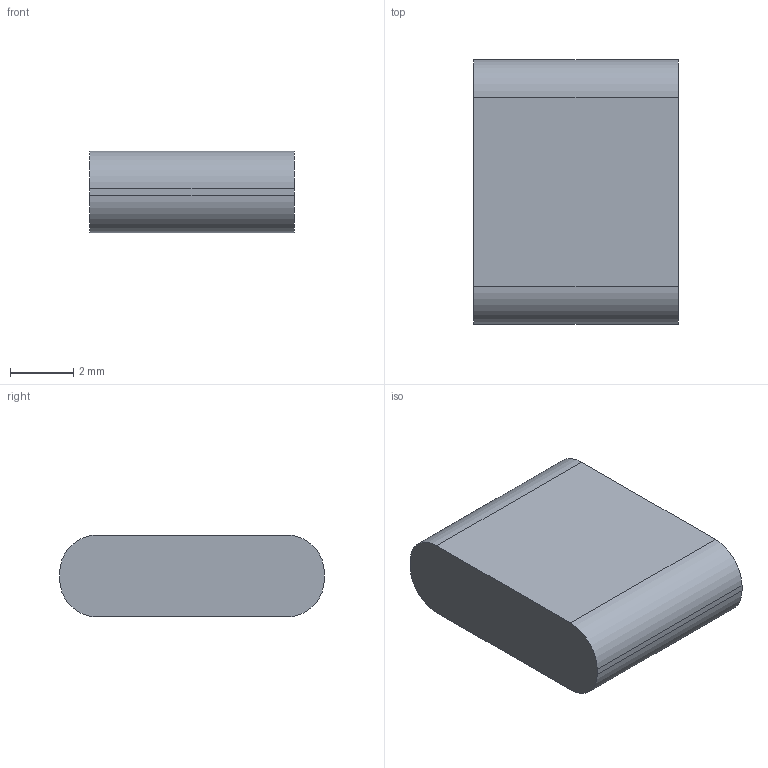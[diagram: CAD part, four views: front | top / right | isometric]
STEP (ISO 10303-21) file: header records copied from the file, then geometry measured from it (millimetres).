
FILE_DESCRIPTION(('Open CASCADE Model'),'2;1');
FILE_NAME('Open CASCADE Shape Model','2026-09-06T11:32:42',('Author'),( 'Open CASCADE'),'Open CASCADE STEP processor 7.7','Open CASCADE 7.7' ,'Unknown');
FILE_SCHEMA(('AUTOMOTIVE_DESIGN { 1 0 10303 214 1 1 1 1 }'));
Length unit declared in the file: millimetre
Products named in the file (1): Open CASCADE STEP translator 7.7 5
Bounding box: 6.5 x 8.4 x 2.6 mm (x, y, z)
Volume: 133.9 mm3; surface area: 170.8 mm2
Topology: 1 solids, 1 shells, 10 faces, 24 edges, 16 vertices
Faces by surface type: plane 6, cylinder 4
Entity records: 630 total; most frequent: CARTESIAN_POINT 123, DIRECTION 98, LINE 56, VECTOR 56, ORIENTED_EDGE 48, PCURVE 48, DEFINITIONAL_REPRESENTATION 48, EDGE_CURVE 24
